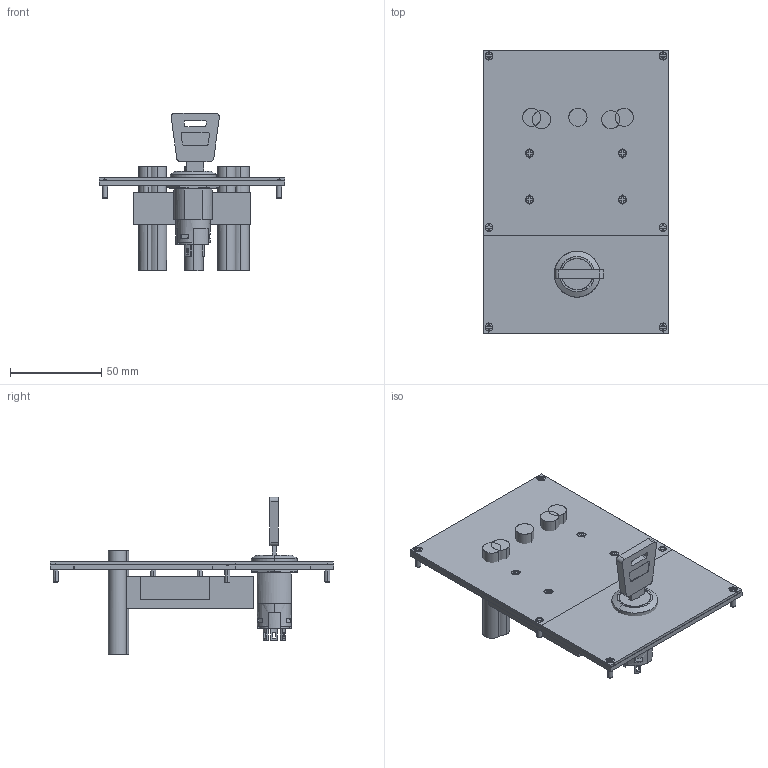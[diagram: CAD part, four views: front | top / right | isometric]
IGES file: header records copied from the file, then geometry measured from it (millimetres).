
Global section: file name: C:\ACADFILES\RSD-DR-PLAIN-3D.igs; native system: AutoCAD-18.2s (LMS Tech) (Microsoft Windows NT Version 6.1 (x86)); preprocessor: Autodesk IGES Translator Mechanical Desktop 2011 (Feb 18 2011) from Autodesk, Inc.; date: 20120510.151354; units: inch
Bounding box: 101.6 x 155.42 x 86.25 mm (x, y, z)
Surface area: 119955.3 mm2 (no closed solid volume)
Topology: 0 solids, 0 shells, 691 faces, 3447 edges, 3491 vertices
Faces by surface type: bspline 691
